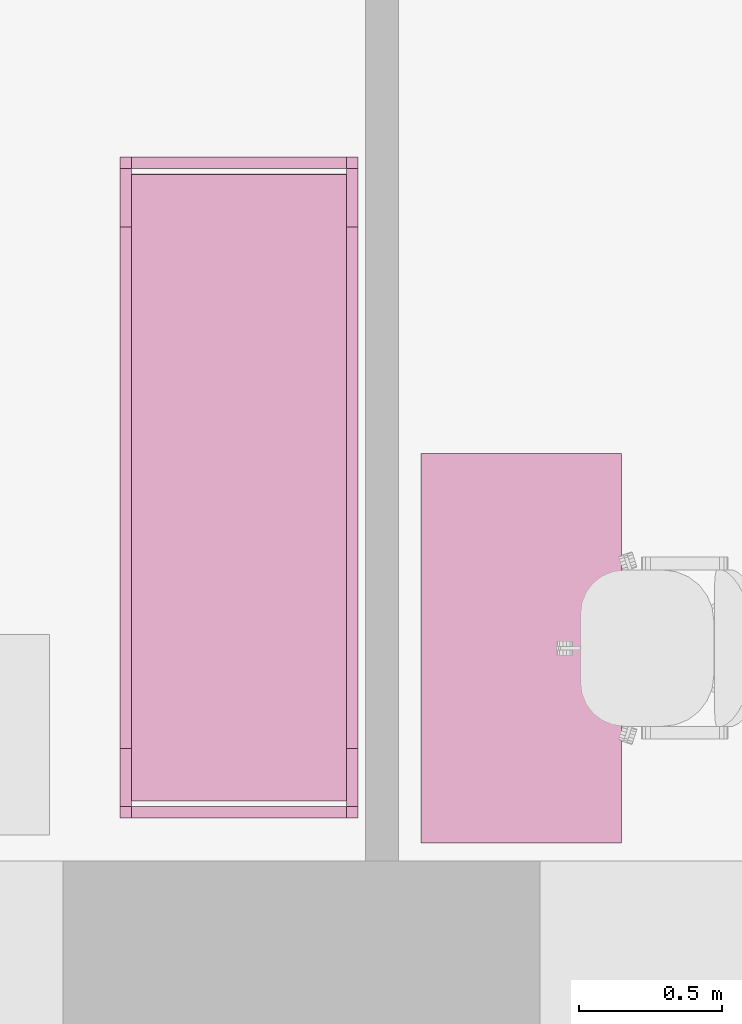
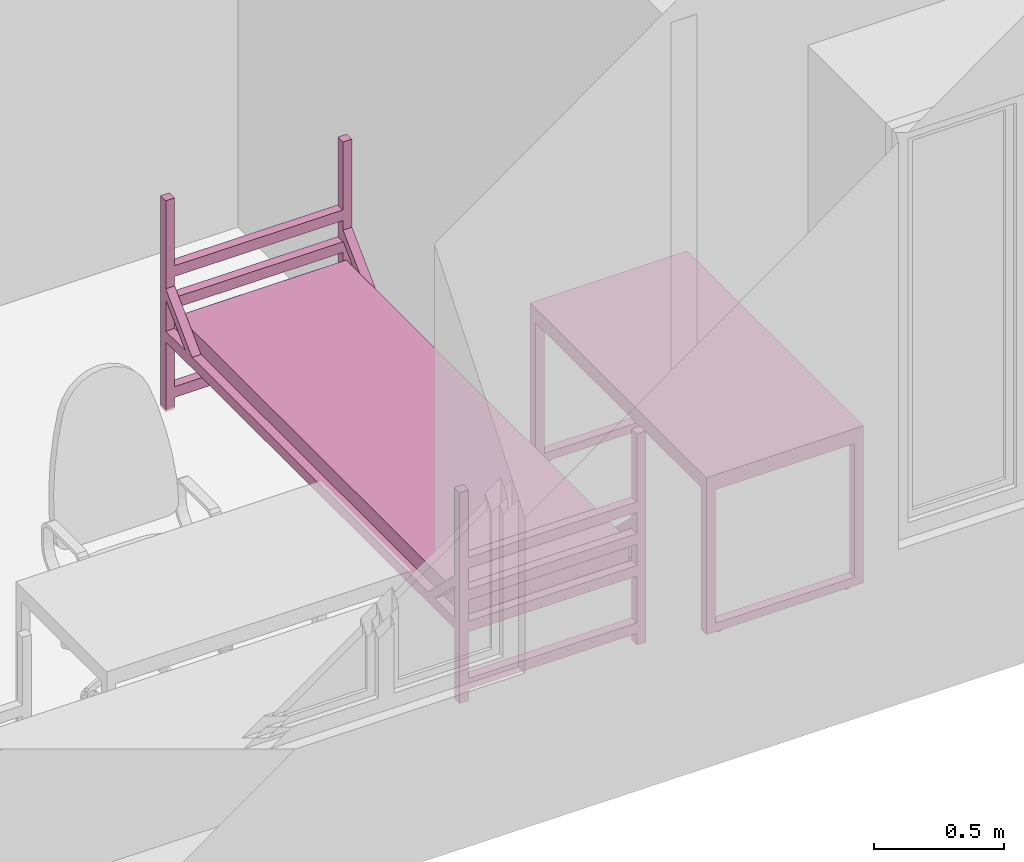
# One storey, part 31 of 46: 2 furnishings.
"""IFC2X3 building model written with IfcOpenShell, lengths in millimetres."""

from ifc_helpers import new_model, entity, si_unit, converted_unit, derived_unit, direction, frame, frame_2d, origin, place, context, subcontext, project, spatial, polyline, circle_curve, parameter, trimmed, segment, composite_curve, rectangle, outline, extrude, faceted_brep, source, transform, mapped, material, material_list, type_object, type_shapes, element, save


model = new_model("IFC2X3")

# Units and contexts
model_context = context("Model", 3, precision=0.01, world=origin(), true_north=direction((6.12303176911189e-17, 1.0)))
body_context = subcontext(model_context, "Body", "Model", "MODEL_VIEW")
ifc_project = project(units=[si_unit("LENGTHUNIT", "METRE", prefix="MILLI"), si_unit("AREAUNIT", "SQUARE_METRE"), si_unit("VOLUMEUNIT", "CUBIC_METRE"), converted_unit("PLANEANGLEUNIT", "DEGREE", entity("IfcRatioMeasure", 0.0174532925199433), si_unit("PLANEANGLEUNIT", "RADIAN"), dimensions=[0, 0, 0, 0, 0, 0, 0]), si_unit("MASSUNIT", "GRAM", prefix="KILO"), derived_unit("MASSDENSITYUNIT", [(si_unit("MASSUNIT", "GRAM", prefix="KILO"), 1), (si_unit("LENGTHUNIT", "METRE"), -3)]), si_unit("TIMEUNIT", "SECOND"), si_unit("FREQUENCYUNIT", "HERTZ"), si_unit("THERMODYNAMICTEMPERATUREUNIT", "DEGREE_CELSIUS"), derived_unit("THERMALTRANSMITTANCEUNIT", [(si_unit("MASSUNIT", "GRAM", prefix="KILO"), 1), (si_unit("THERMODYNAMICTEMPERATUREUNIT", "KELVIN"), -1), (si_unit("TIMEUNIT", "SECOND"), -3)]), derived_unit("VOLUMETRICFLOWRATEUNIT", [(si_unit("LENGTHUNIT", "METRE"), 3), (si_unit("TIMEUNIT", "SECOND"), -1)]), si_unit("ELECTRICCURRENTUNIT", "AMPERE"), si_unit("ELECTRICVOLTAGEUNIT", "VOLT"), si_unit("POWERUNIT", "WATT"), si_unit("FORCEUNIT", "NEWTON", prefix="KILO"), si_unit("ILLUMINANCEUNIT", "LUX"), si_unit("LUMINOUSFLUXUNIT", "LUMEN"), si_unit("LUMINOUSINTENSITYUNIT", "CANDELA"), derived_unit("USERDEFINED", [(si_unit("MASSUNIT", "GRAM", prefix="KILO"), -1), (si_unit("LENGTHUNIT", "METRE"), -2), (si_unit("TIMEUNIT", "SECOND"), 3), (si_unit("LUMINOUSFLUXUNIT", "LUMEN"), 1)]), derived_unit("LINEARVELOCITYUNIT", [(si_unit("LENGTHUNIT", "METRE"), 1), (si_unit("TIMEUNIT", "SECOND"), -1)]), si_unit("PRESSUREUNIT", "PASCAL"), derived_unit("USERDEFINED", [(si_unit("LENGTHUNIT", "METRE"), -2), (si_unit("MASSUNIT", "GRAM", prefix="KILO"), 1), (si_unit("TIMEUNIT", "SECOND"), -2)]), derived_unit("LINEARFORCEUNIT", [(si_unit("MASSUNIT", "GRAM", prefix="KILO"), 1), (si_unit("LENGTHUNIT", "METRE"), 1), (si_unit("TIMEUNIT", "SECOND"), -2), (si_unit("LENGTHUNIT", "METRE"), -1)]), derived_unit("PLANARFORCEUNIT", [(si_unit("MASSUNIT", "GRAM", prefix="KILO"), 1), (si_unit("LENGTHUNIT", "METRE"), 1), (si_unit("TIMEUNIT", "SECOND"), -2), (si_unit("LENGTHUNIT", "METRE"), -2)])], contexts=[model_context])

# Site, building, storey, space
site_placement = place(None, origin())
site = spatial("IfcSite", under=ifc_project, at=site_placement, Name="Default", CompositionType="ELEMENT")
building_placement = place(site_placement, origin())
building = spatial("IfcBuilding", under=site, at=building_placement, Name="SMA ARH", CompositionType="ELEMENT")
storey_placement = place(building_placement, frame((0.0, 0.0, 9910.0)))
storey = spatial("IfcBuildingStorey", under=building, at=storey_placement, Name="4 Korrus", CompositionType="ELEMENT", Elevation=9909.9999999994)
space_1_placement = place(storey_placement, origin())
space_1 = spatial("IfcSpace", under=storey, at=space_1_placement, Name="4-7", CompositionType="ELEMENT", InteriorOrExteriorSpace="INTERNAL")

# Furnishing
ifc_material_1 = material(Name="Madrats")
furniture_type_1 = type_object("IfcFurnitureType", Name="Kasarmu voodi ühekordne 2308x830:Kasarmu voodi ühekordne 2308x830", material=ifc_material_1)
shared_shape_1 = source(origin(), body_context, "Body", "SweptSolid", [
    extrude(rectangle(XDim=39.9999999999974, YDim=750.000000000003, at=frame_2d((-1.35003119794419e-13, -2.8421709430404e-14), x_axis=(1.0, 0.0))), frame((1.68638457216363, -1226.7969571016, 55.0), z_axis=(0.0, 0.0, 1.0), x_axis=(0.0, -1.0, 0.0)), (0.0, 0.0, 1.0), 49.9999999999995),
    extrude(rectangle(XDim=39.9999999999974, YDim=750.000000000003, at=frame_2d((-1.35003119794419e-13, -2.8421709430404e-14), x_axis=(1.0, 0.0))), frame((1.68638457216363, -1226.7969571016, 325.0), z_axis=(0.0, 0.0, 1.0), x_axis=(0.0, -1.0, 0.0)), (0.0, 0.0, 1.0), 49.9999999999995),
    extrude(rectangle(XDim=39.9999999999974, YDim=750.000000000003, at=frame_2d((-1.35003119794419e-13, -2.8421709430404e-14), x_axis=(1.0, 0.0))), frame((1.68638457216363, -1226.7969571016, 475.0), z_axis=(0.0, 0.0, 1.0), x_axis=(0.0, -1.0, 0.0)), (0.0, 0.0, 1.0), 49.9999999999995),
    extrude(rectangle(XDim=39.9999999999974, YDim=750.000000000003, at=frame_2d((-1.35003119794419e-13, -2.8421709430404e-14), x_axis=(1.0, 0.0))), frame((1.68638457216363, -1226.7969571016, 625.0), z_axis=(0.0, 0.0, 1.0), x_axis=(0.0, -1.0, 0.0)), (0.0, 0.0, 1.0), 50.0000000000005),
    extrude(rectangle(XDim=39.9999999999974, YDim=750.000000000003, at=frame_2d((1.35003119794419e-13, -2.8421709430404e-14), x_axis=(1.0, 0.0))), frame((1.68638457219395, 1041.2030428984, 55.0), z_axis=(0.0, 0.0, 1.0), x_axis=(0.0, -1.0, 0.0)), (0.0, 0.0, 1.0), 50.0000000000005),
    extrude(rectangle(XDim=39.9999999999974, YDim=750.000000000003, at=frame_2d((1.35003119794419e-13, -2.8421709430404e-14), x_axis=(1.0, 0.0))), frame((1.68638457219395, 1041.2030428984, 325.0), z_axis=(0.0, 0.0, 1.0), x_axis=(0.0, -1.0, 0.0)), (0.0, 0.0, 1.0), 50.0000000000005),
    extrude(rectangle(XDim=39.9999999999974, YDim=750.000000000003, at=frame_2d((1.35003119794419e-13, -2.8421709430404e-14), x_axis=(1.0, 0.0))), frame((1.68638457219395, 1041.2030428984, 475.0), z_axis=(0.0, 0.0, 1.0), x_axis=(0.0, -1.0, 0.0)), (0.0, 0.0, 1.0), 50.0000000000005),
    extrude(rectangle(XDim=39.9999999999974, YDim=750.000000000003, at=frame_2d((1.35003119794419e-13, -2.8421709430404e-14), x_axis=(1.0, 0.0))), frame((1.68638457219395, 1041.2030428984, 625.0), z_axis=(0.0, 0.0, 1.0), x_axis=(0.0, -1.0, 0.0)), (0.0, 0.0, 1.0), 49.9999999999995),
    extrude(outline(composite_curve([segment(trimmed(circle_curve(frame_2d((1085.0, -40.0), x_axis=(1.0, 0.0)), 10.0), [parameter(270.0)], [parameter(0.0)], True, "PARAMETER"), True, "CONTINUOUS"), segment(polyline([(1095.0, -40.0), (1095.0, 40.0)]), True, "CONTINUOUS"), segment(trimmed(circle_curve(frame_2d((1085.0, 40.0), x_axis=(1.0, 0.0)), 10.0), [parameter(0.0)], [parameter(90.0000000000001)], True, "PARAMETER"), True, "CONTINUOUS"), segment(polyline([(1085.0, 50.0), (-1085.0, 50.0)]), True, "CONTINUOUS"), segment(trimmed(circle_curve(frame_2d((-1085.0, 40.0), x_axis=(1.0, 0.0)), 10.0), [parameter(90.0000000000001)], [parameter(180.0)], True, "PARAMETER"), True, "CONTINUOUS"), segment(polyline([(-1095.0, 40.0), (-1095.0, -40.0)]), True, "CONTINUOUS"), segment(trimmed(circle_curve(frame_2d((-1085.0, -40.0), x_axis=(1.0, 0.0)), 10.0), [parameter(180.0)], [parameter(270.0)], True, "PARAMETER"), True, "CONTINUOUS"), segment(polyline([(-1085.0, -50.0), (1085.0, -50.0)]), True, "CONTINUOUS")], self_intersect=False)), frame((-373.313615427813, -92.7969571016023, 405.0), z_axis=(1.0, 0.0, 0.0), x_axis=(0.0, -1.0, 0.0)), (0.0, 0.0, 1.0), 750.000000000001),
    extrude(outline(polyline([(-1114.0, -100.0), (1114.0, -100.0), (1114.0, -50.0), (961.59199141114, -50.0), (1114.0, 100.0), (1114.0, 150.0), (910.789321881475, -50.0), (-910.789321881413, -50.0), (-1114.0, 150.0), (-1114.0, 100.0), (-961.591991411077, -50.0), (-1114.0, -50.0), (-1114.0, -100.0)])), frame((-413.313615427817, -92.7969571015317, 430.0), z_axis=(1.0, 0.0, 0.0), x_axis=(0.0, 1.0, 0.0)), (0.0, 0.0, 1.0), 39.9999999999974),
    extrude(outline(polyline([(-1114.0, -100.0), (1114.0, -100.0), (1114.0, -50.0), (961.591991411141, -50.0), (1114.0, 100.0), (1114.0, 150.0), (910.789321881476, -50.0), (-910.789321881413, -50.0), (-1114.0, 150.0), (-1114.0, 100.0), (-961.591991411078, -50.0), (-1114.0, -50.0), (-1114.0, -100.0)])), frame((376.686384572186, -92.796957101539, 430.0), z_axis=(1.0, 0.0, 0.0), x_axis=(0.0, 1.0, 0.0)), (0.0, 0.0, 1.0), 39.9999999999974),
    extrude(rectangle(XDim=39.9999999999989, YDim=39.9999999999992, at=frame_2d((-6.75015598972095e-14, 0.0), x_axis=(1.0, 0.0))), frame((396.686384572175, -1226.79695710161, 0.0), z_axis=(0.0, 0.0, 1.0), x_axis=(0.0, 1.0, 0.0)), (0.0, 0.0, 1.0), 995.0),
    extrude(rectangle(XDim=39.9999999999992, YDim=39.9999999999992, at=frame_2d((-1.35003119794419e-13, 0.0), x_axis=(1.0, 0.0))), frame((396.686384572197, 1041.20304289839, 0.0), z_axis=(0.0, 0.0, 1.0), x_axis=(0.0, 1.0, 0.0)), (0.0, 0.0, 1.0), 995.0),
    extrude(rectangle(XDim=40.0000000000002, YDim=39.9999999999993, at=frame_2d((-1.35003119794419e-13, 0.0), x_axis=(1.0, 0.0))), frame((-393.313615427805, 1041.2030428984, 0.0), z_axis=(0.0, 0.0, 1.0), x_axis=(0.0, 1.0, 0.0)), (0.0, 0.0, 1.0), 995.0),
    extrude(rectangle(XDim=39.9999999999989, YDim=39.9999999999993, at=frame_2d((-6.75015598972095e-14, 0.0), x_axis=(1.0, 0.0))), frame((-393.313615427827, -1226.7969571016, 0.0), z_axis=(0.0, 0.0, 1.0), x_axis=(0.0, 1.0, 0.0)), (0.0, 0.0, 1.0), 995.0),
])
type_shapes(furniture_type_1, [shared_shape_1])
furnishing_1_placement = place(space_1_placement, frame((26577.3136154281, 1396.79695710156, 0.0)))
element("IfcFurnishingElement", 1, at=furnishing_1_placement, inside=space_1, type_object=furniture_type_1, material=ifc_material_1, Name="Kasarmu voodi ühekordne 2308x830:Kasarmu voodi ühekordne 2308x830", ObjectType="Kasarmu voodi ühekordne 2308x830:Kasarmu voodi ühekordne 2308x830", context=body_context, shape_type="MappedRepresentation", body=[
    mapped(shared_shape_1, transform((0.0, 0.0, 0.0), scale=1.0)),
])

# Space
space_2_placement = place(storey_placement, origin())
space_2 = spatial("IfcSpace", under=storey, at=space_2_placement, Name="4-6", CompositionType="ELEMENT", InteriorOrExteriorSpace="INTERNAL")

# Furnishing
ifc_material_2 = material(Name="<Unnamed>")
ifc_material_list = material_list([ifc_material_2, ifc_material_2])
furniture_type_2 = type_object("IfcFurnitureType", Name="kirjutuslaud 1360x700mm:kirjutuslaud 1360x700mm", material=ifc_material_list)
shared_shape_2 = source(origin(), body_context, "Body", "Brep", [
    faceted_brep([(680.0, -350.0, 720.0), (680.0, 350.0, 720.0), (680.0, 350.0, 750.0), (680.0, -350.0, 750.0), (-680.0, -350.0, 720.0), (-680.0, -350.0, 750.0), (-680.0, 350.0, 750.0), (-680.0, 350.0, 720.0)], [[[0, 1, 2, 3]], [[4, 5, 6, 7]], [[1, 0, 4, 7]], [[2, 1, 7, 6]], [[3, 2, 6, 5]], [[0, 3, 5, 4]]]),
    faceted_brep([(-640.0, -310.0, 680.0), (-640.0, 310.0, 680.0), (-640.0, 310.0, 720.0), (-640.0, -310.0, 720.0), (-680.0, -350.0, 720.0), (-680.0, 350.0, 720.0), (-680.0, 350.0, 10.0), (-680.0, -350.0, 10.0), (-680.0, 310.0, 680.0), (-680.0, -310.0, 680.0), (-680.0, -310.0, 50.0), (-680.0, 310.0, 50.0), (-640.0, -350.0, 10.0), (-640.0, -350.0, 680.0), (640.0, -350.0, 680.0), (640.0, -350.0, 10.0), (680.0, -350.0, 10.0), (680.0, -350.0, 720.0), (-640.0, 350.0, 10.0), (680.0, 350.0, 720.0), (680.0, 350.0, 10.0), (640.0, 350.0, 10.0), (640.0, 350.0, 680.0), (-640.0, 350.0, 680.0), (640.0, 310.0, 720.0), (640.0, -310.0, 720.0), (-640.0, 310.0, 50.0), (-640.0, -310.0, 50.0), (640.0, -310.0, 680.0), (640.0, 310.0, 680.0), (680.0, 310.0, 680.0), (680.0, 310.0, 50.0), (680.0, -310.0, 50.0), (680.0, -310.0, 680.0), (640.0, -310.0, 50.0), (640.0, 310.0, 50.0)], [[[0, 1, 2, 3]], [[4, 5, 6, 7], [8, 9, 10, 11]], [[4, 7, 12, 13, 14, 15, 16, 17]], [[18, 12, 7, 6]], [[6, 5, 19, 20, 21, 22, 23, 18]], [[19, 5, 4, 17], [2, 24, 25, 3]], [[26, 1, 8, 11]], [[27, 26, 11, 10]], [[0, 27, 10, 9]], [[1, 0, 9, 8]], [[14, 13, 0, 28]], [[24, 2, 1, 29]], [[3, 25, 28, 0]], [[17, 16, 20, 19], [30, 31, 32, 33]], [[21, 15, 14, 28, 34, 35, 29, 22]], [[20, 16, 15, 21]], [[31, 30, 29, 35]], [[32, 31, 35, 34]], [[33, 32, 34, 28]], [[30, 33, 28, 29]], [[29, 28, 25, 24]], [[29, 1, 23, 22]], [[12, 18, 23, 1, 26, 27, 0, 13]]]),
    faceted_brep([(-663.729456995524, -270.466136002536, 0.0), (-659.847171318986, -269.955023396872, 0.0), (-655.964885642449, -270.466136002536, 0.0), (-652.347171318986, -271.964642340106, 0.0), (-649.240569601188, -274.348421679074, 0.0), (-646.85679026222, -277.455023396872, 0.0), (-645.35828392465, -281.072737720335, 0.0), (-644.847171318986, -284.955023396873, 0.0), (-645.35828392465, -288.83730907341, 0.0), (-646.85679026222, -292.455023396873, 0.0), (-649.240569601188, -295.561625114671, 0.0), (-652.347171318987, -297.945404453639, 0.0), (-655.964885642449, -299.443910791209, 0.0), (-659.847171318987, -299.955023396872, 0.0), (-663.729456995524, -299.443910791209, 0.0), (-667.347171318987, -297.945404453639, 0.0), (-670.453773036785, -295.561625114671, 0.0), (-672.837552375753, -292.455023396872, 0.0), (-674.336058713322, -288.83730907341, 0.0), (-674.847171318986, -284.955023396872, 0.0), (-674.336058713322, -281.072737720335, 0.0), (-672.837552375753, -277.455023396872, 0.0), (-670.453773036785, -274.348421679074, 0.0), (-667.347171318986, -271.964642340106, 0.0), (-655.964885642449, -299.443910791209, 10.0), (-652.347171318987, -297.945404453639, 10.0), (-649.240569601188, -295.561625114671, 10.0), (-646.85679026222, -292.455023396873, 10.0), (-645.35828392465, -288.83730907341, 10.0), (-644.847171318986, -284.955023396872, 10.0), (-645.35828392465, -281.072737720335, 10.0), (-646.85679026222, -277.455023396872, 10.0), (-649.240569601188, -274.348421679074, 10.0), (-652.347171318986, -271.964642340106, 10.0), (-655.964885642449, -270.466136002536, 10.0), (-659.847171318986, -269.955023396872, 10.0), (-663.729456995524, -270.466136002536, 10.0), (-667.347171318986, -271.964642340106, 10.0), (-670.453773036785, -274.348421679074, 10.0), (-672.837552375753, -277.455023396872, 10.0), (-674.336058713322, -281.072737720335, 10.0), (-674.847171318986, -284.955023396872, 10.0), (-674.336058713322, -288.83730907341, 10.0), (-672.837552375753, -292.455023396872, 10.0), (-670.453773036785, -295.561625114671, 10.0), (-667.347171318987, -297.945404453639, 10.0), (-663.729456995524, -299.443910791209, 10.0), (-659.847171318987, -299.955023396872, 10.0)], [[[0, 1, 2, 3, 4, 5, 6, 7, 8, 9, 10, 11, 12, 13, 14, 15, 16, 17, 18, 19, 20, 21, 22, 23]], [[24, 25, 26, 27, 28, 29, 30, 31, 32, 33, 34, 35, 36, 37, 38, 39, 40, 41, 42, 43, 44, 45, 46, 47]], [[18, 42, 41, 19]], [[17, 43, 42, 18]], [[45, 44, 16, 15]], [[17, 16, 44, 43]], [[46, 45, 15, 14]], [[47, 46, 14, 13]], [[12, 24, 47, 13]], [[11, 25, 24, 12]], [[27, 26, 10, 9]], [[11, 10, 26, 25]], [[28, 27, 9, 8]], [[29, 28, 8, 7]], [[6, 30, 29, 7]], [[5, 31, 30, 6]], [[33, 32, 4, 3]], [[5, 4, 32, 31]], [[34, 33, 3, 2]], [[35, 34, 2, 1]], [[0, 36, 35, 1]], [[23, 37, 36, 0]], [[39, 38, 22, 21]], [[23, 22, 38, 37]], [[40, 39, 21, 20]], [[41, 40, 20, 19]]]),
    faceted_brep([(-655.964885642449, 270.466136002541, 10.0), (-652.347171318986, 271.964642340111, 10.0), (-649.240569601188, 274.348421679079, 10.0), (-646.85679026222, 277.455023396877, 10.0), (-645.35828392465, 281.07273772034, 10.0), (-644.847171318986, 284.955023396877, 10.0), (-645.35828392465, 288.837309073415, 10.0), (-646.85679026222, 292.455023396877, 10.0), (-649.240569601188, 295.561625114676, 10.0), (-652.347171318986, 297.945404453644, 10.0), (-655.964885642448, 299.443910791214, 10.0), (-659.847171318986, 299.955023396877, 10.0), (-663.729456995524, 299.443910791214, 10.0), (-667.347171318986, 297.945404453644, 10.0), (-670.453773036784, 295.561625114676, 10.0), (-672.837552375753, 292.455023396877, 10.0), (-674.336058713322, 288.837309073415, 10.0), (-674.847171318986, 284.955023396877, 10.0), (-674.336058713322, 281.07273772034, 10.0), (-672.837552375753, 277.455023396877, 10.0), (-670.453773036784, 274.348421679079, 10.0), (-667.347171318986, 271.964642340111, 10.0), (-663.729456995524, 270.466136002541, 10.0), (-659.847171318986, 269.955023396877, 10.0), (-655.964885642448, 299.443910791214, 0.0), (-652.347171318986, 297.945404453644, 0.0), (-649.240569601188, 295.561625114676, 0.0), (-646.85679026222, 292.455023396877, 0.0), (-645.35828392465, 288.837309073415, 0.0), (-644.847171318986, 284.955023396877, 0.0), (-645.35828392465, 281.07273772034, 0.0), (-646.85679026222, 277.455023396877, 0.0), (-649.240569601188, 274.348421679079, 0.0), (-652.347171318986, 271.964642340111, 0.0), (-655.964885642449, 270.466136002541, 0.0), (-659.847171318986, 269.955023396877, 0.0), (-663.729456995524, 270.466136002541, 0.0), (-667.347171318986, 271.964642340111, 0.0), (-670.453773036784, 274.348421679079, 0.0), (-672.837552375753, 277.455023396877, 0.0), (-674.336058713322, 281.07273772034, 0.0), (-674.847171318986, 284.955023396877, 0.0), (-674.336058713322, 288.837309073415, 0.0), (-672.837552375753, 292.455023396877, 0.0), (-670.453773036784, 295.561625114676, 0.0), (-667.347171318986, 297.945404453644, 0.0), (-663.729456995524, 299.443910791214, 0.0), (-659.847171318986, 299.955023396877, 0.0)], [[[0, 1, 2, 3, 4, 5, 6, 7, 8, 9, 10, 11, 12, 13, 14, 15, 16, 17, 18, 19, 20, 21, 22, 23]], [[24, 25, 26, 27, 28, 29, 30, 31, 32, 33, 34, 35, 36, 37, 38, 39, 40, 41, 42, 43, 44, 45, 46, 47]], [[40, 18, 17, 41]], [[39, 19, 18, 40]], [[21, 20, 38, 37]], [[39, 38, 20, 19]], [[22, 21, 37, 36]], [[23, 22, 36, 35]], [[34, 0, 23, 35]], [[33, 1, 0, 34]], [[3, 2, 32, 31]], [[33, 32, 2, 1]], [[4, 3, 31, 30]], [[5, 4, 30, 29]], [[28, 6, 5, 29]], [[27, 7, 6, 28]], [[9, 8, 26, 25]], [[27, 26, 8, 7]], [[10, 9, 25, 24]], [[11, 10, 24, 47]], [[46, 12, 11, 47]], [[45, 13, 12, 46]], [[15, 14, 44, 43]], [[45, 44, 14, 13]], [[16, 15, 43, 42]], [[17, 16, 42, 41]]]),
    faceted_brep([(656.270543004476, -270.466136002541, 0.0), (660.152828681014, -269.955023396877, 0.0), (664.035114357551, -270.466136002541, 0.0), (667.652828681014, -271.96464234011, 0.0), (670.759430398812, -274.348421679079, 0.0), (673.14320973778, -277.455023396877, 0.0), (674.64171607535, -281.072737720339, 0.0), (675.152828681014, -284.955023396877, 0.0), (674.64171607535, -288.837309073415, 0.0), (673.14320973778, -292.455023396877, 0.0), (670.759430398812, -295.561625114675, 0.0), (667.652828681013, -297.945404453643, 0.0), (664.035114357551, -299.443910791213, 0.0), (660.152828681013, -299.955023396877, 0.0), (656.270543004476, -299.443910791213, 0.0), (652.652828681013, -297.945404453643, 0.0), (649.546226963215, -295.561625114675, 0.0), (647.162447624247, -292.455023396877, 0.0), (645.663941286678, -288.837309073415, 0.0), (645.152828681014, -284.955023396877, 0.0), (645.663941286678, -281.072737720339, 0.0), (647.162447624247, -277.455023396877, 0.0), (649.546226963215, -274.348421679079, 0.0), (652.652828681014, -271.96464234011, 0.0), (664.035114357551, -299.443910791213, 10.0), (667.652828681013, -297.945404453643, 10.0), (670.759430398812, -295.561625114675, 10.0), (673.14320973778, -292.455023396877, 10.0), (674.64171607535, -288.837309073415, 10.0), (675.152828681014, -284.955023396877, 10.0), (674.64171607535, -281.072737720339, 10.0), (673.14320973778, -277.455023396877, 10.0), (670.759430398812, -274.348421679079, 10.0), (667.652828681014, -271.96464234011, 10.0), (664.035114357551, -270.466136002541, 10.0), (660.152828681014, -269.955023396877, 10.0), (656.270543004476, -270.466136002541, 10.0), (652.652828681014, -271.96464234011, 10.0), (649.546226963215, -274.348421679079, 10.0), (647.162447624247, -277.455023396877, 10.0), (645.663941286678, -281.072737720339, 10.0), (645.152828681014, -284.955023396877, 10.0), (645.663941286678, -288.837309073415, 10.0), (647.162447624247, -292.455023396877, 10.0), (649.546226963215, -295.561625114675, 10.0), (652.652828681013, -297.945404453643, 10.0), (656.270543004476, -299.443910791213, 10.0), (660.152828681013, -299.955023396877, 10.0)], [[[0, 1, 2, 3, 4, 5, 6, 7, 8, 9, 10, 11, 12, 13, 14, 15, 16, 17, 18, 19, 20, 21, 22, 23]], [[24, 25, 26, 27, 28, 29, 30, 31, 32, 33, 34, 35, 36, 37, 38, 39, 40, 41, 42, 43, 44, 45, 46, 47]], [[18, 42, 41, 19]], [[17, 43, 42, 18]], [[45, 44, 16, 15]], [[17, 16, 44, 43]], [[46, 45, 15, 14]], [[47, 46, 14, 13]], [[12, 24, 47, 13]], [[11, 25, 24, 12]], [[27, 26, 10, 9]], [[11, 10, 26, 25]], [[28, 27, 9, 8]], [[29, 28, 8, 7]], [[6, 30, 29, 7]], [[5, 31, 30, 6]], [[33, 32, 4, 3]], [[5, 4, 32, 31]], [[34, 33, 3, 2]], [[35, 34, 2, 1]], [[0, 36, 35, 1]], [[23, 37, 36, 0]], [[39, 38, 22, 21]], [[23, 22, 38, 37]], [[40, 39, 21, 20]], [[41, 40, 20, 19]]]),
    faceted_brep([(664.035114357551, 270.466136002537, 10.0), (667.652828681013, 271.964642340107, 10.0), (670.759430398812, 274.348421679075, 10.0), (673.14320973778, 277.455023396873, 10.0), (674.64171607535, 281.072737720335, 10.0), (675.152828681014, 284.955023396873, 10.0), (674.64171607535, 288.837309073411, 10.0), (673.14320973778, 292.455023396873, 10.0), (670.759430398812, 295.561625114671, 10.0), (667.652828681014, 297.94540445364, 10.0), (664.035114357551, 299.443910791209, 10.0), (660.152828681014, 299.955023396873, 10.0), (656.270543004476, 299.443910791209, 10.0), (652.652828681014, 297.94540445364, 10.0), (649.546226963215, 295.561625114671, 10.0), (647.162447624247, 292.455023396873, 10.0), (645.663941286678, 288.837309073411, 10.0), (645.152828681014, 284.955023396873, 10.0), (645.663941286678, 281.072737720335, 10.0), (647.162447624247, 277.455023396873, 10.0), (649.546226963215, 274.348421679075, 10.0), (652.652828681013, 271.964642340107, 10.0), (656.270543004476, 270.466136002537, 10.0), (660.152828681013, 269.955023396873, 10.0), (664.035114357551, 299.443910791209, 0.0), (667.652828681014, 297.94540445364, 0.0), (670.759430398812, 295.561625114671, 0.0), (673.14320973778, 292.455023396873, 0.0), (674.64171607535, 288.837309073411, 0.0), (675.152828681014, 284.955023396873, 0.0), (674.64171607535, 281.072737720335, 0.0), (673.14320973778, 277.455023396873, 0.0), (670.759430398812, 274.348421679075, 0.0), (667.652828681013, 271.964642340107, 0.0), (664.035114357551, 270.466136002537, 0.0), (660.152828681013, 269.955023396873, 0.0), (656.270543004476, 270.466136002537, 0.0), (652.652828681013, 271.964642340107, 0.0), (649.546226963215, 274.348421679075, 0.0), (647.162447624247, 277.455023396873, 0.0), (645.663941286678, 281.072737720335, 0.0), (645.152828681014, 284.955023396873, 0.0), (645.663941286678, 288.837309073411, 0.0), (647.162447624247, 292.455023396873, 0.0), (649.546226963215, 295.561625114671, 0.0), (652.652828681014, 297.94540445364, 0.0), (656.270543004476, 299.443910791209, 0.0), (660.152828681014, 299.955023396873, 0.0)], [[[0, 1, 2, 3, 4, 5, 6, 7, 8, 9, 10, 11, 12, 13, 14, 15, 16, 17, 18, 19, 20, 21, 22, 23]], [[24, 25, 26, 27, 28, 29, 30, 31, 32, 33, 34, 35, 36, 37, 38, 39, 40, 41, 42, 43, 44, 45, 46, 47]], [[40, 18, 17, 41]], [[39, 19, 18, 40]], [[21, 20, 38, 37]], [[39, 38, 20, 19]], [[22, 21, 37, 36]], [[23, 22, 36, 35]], [[34, 0, 23, 35]], [[33, 1, 0, 34]], [[3, 2, 32, 31]], [[33, 32, 2, 1]], [[4, 3, 31, 30]], [[5, 4, 30, 29]], [[28, 6, 5, 29]], [[27, 7, 6, 28]], [[9, 8, 26, 25]], [[27, 26, 8, 7]], [[10, 9, 25, 24]], [[11, 10, 24, 47]], [[46, 12, 11, 47]], [[45, 13, 12, 46]], [[15, 14, 44, 43]], [[45, 44, 14, 13]], [[16, 15, 43, 42]], [[17, 16, 42, 41]]]),
])
type_shapes(furniture_type_2, [shared_shape_2])
furnishing_2_placement = place(space_2_placement, frame((27564.0449999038, 743.180198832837, 0.0), z_axis=(0.0, 0.0, 1.0), x_axis=(0.0, -1.0, 0.0)))
element("IfcFurnishingElement", 2, at=furnishing_2_placement, inside=space_2, type_object=furniture_type_2, Name="kirjutuslaud 1360x700mm:kirjutuslaud 1360x700mm", ObjectType="kirjutuslaud 1360x700mm:kirjutuslaud 1360x700mm", context=body_context, shape_type="MappedRepresentation", body=[
    mapped(shared_shape_2, transform((0.0, 0.0, 0.0), scale=1.0)),
])

save(model, "model.ifc")
